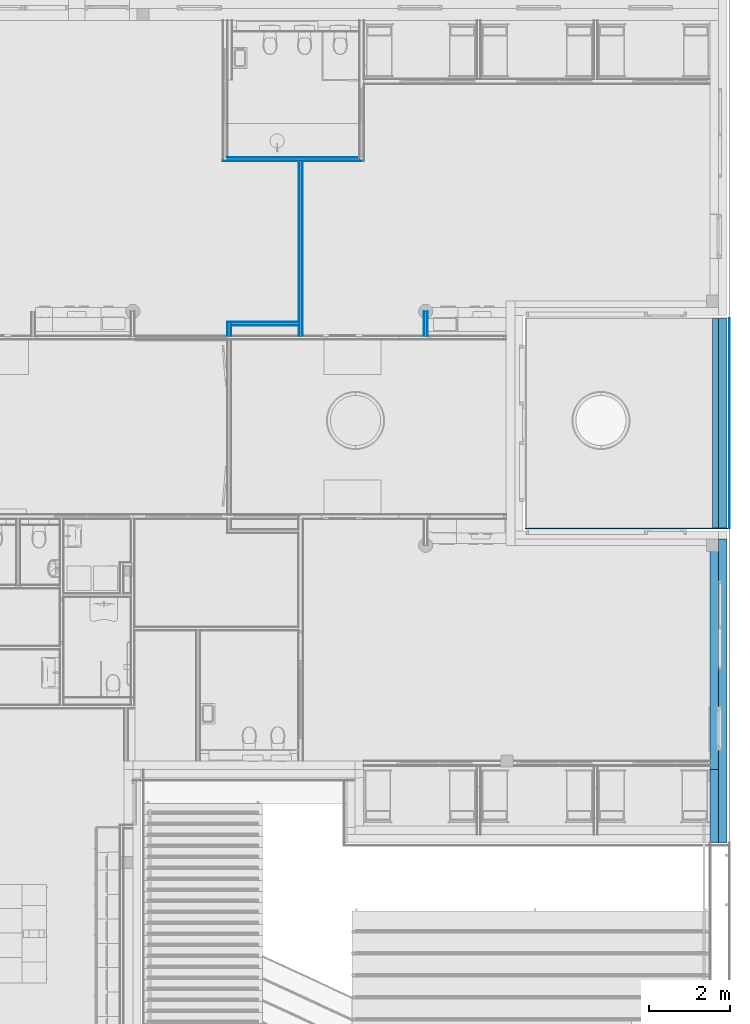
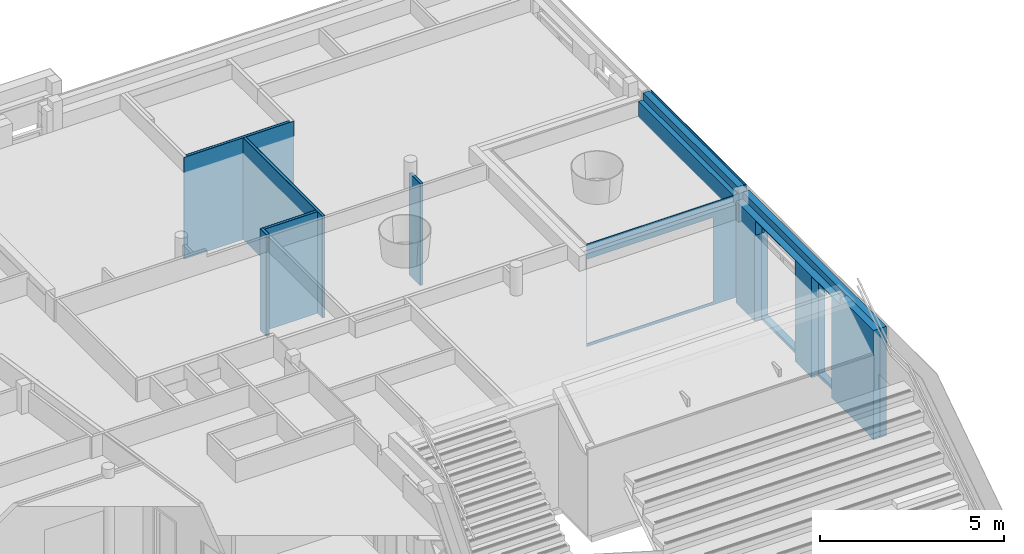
# One storey, part 77 of 167: 21 building element parts, 3 openings, 8 elements without a shape of their own.
"""IFC2X3 building model written with IfcOpenShell, lengths in millimetres."""

import ifcopenshell
import ifcopenshell.guid

model = None  # the IFC model being written
_history = None  # IfcOwnerHistory: only IFC2X3 demands one
_inside = {}  # id of a spatial element -> (the spatial element, [elements in it])
_under = {}  # id of a project, library or spatial element -> (it, [spatial elements below it])
_declared = {}  # id of a project -> (the project, [libraries it declares])
_typed = {}  # id of a type object -> (the type object, [elements of that type])
_made_of = {}  # id of a material, layer set ... -> (it, [elements and type objects made of it])


def new_model(schema):
    """Start an empty IFC model of exactly this schema.

    Asked for "IFC4X3", IfcOpenShell would pick the latest addendum, in which some entities
    have other attributes; the version numbers below select the first issue.
    IFC2X3 requires an IfcOwnerHistory on every rooted entity: one is made here for all.
    """
    global model, _history
    if schema == "IFC4X3":
        model = ifcopenshell.file(schema_version=(4, 3, 0, 0))
    else:
        model = ifcopenshell.file(schema=schema)
    _inside.clear()
    _under.clear()
    _declared.clear()
    _typed.clear()
    _made_of.clear()
    _history = None
    if model.schema == "IFC2X3":
        org = make("IfcOrganization", Name="unknown")
        user = make(
            "IfcPersonAndOrganization",
            ThePerson=make("IfcPerson", FamilyName="unknown"),
            TheOrganization=org,
        )
        app = make(
            "IfcApplication",
            ApplicationDeveloper=org,
            Version="unknown",
            ApplicationFullName="unknown",
            ApplicationIdentifier="unknown",
        )
        _history = make(
            "IfcOwnerHistory",
            OwningUser=user,
            OwningApplication=app,
            ChangeAction="ADDED",
            CreationDate=0,
        )
    return model


def make(cls, **values):
    """One entity of the class cls with the attributes given. An attribute that is None is left unset."""
    return model.create_entity(
        cls, **{name: value for name, value in values.items() if value is not None}
    )


def entity(cls, *values):
    """Any entity or typed value of the class cls, its attributes in the order of the schema. None: left unset."""
    e = model.create_entity(cls)
    for i, value in enumerate(values):
        if value is not None:
            e[i] = value
    return e


def rooted(cls, **values):
    """An entity with a GlobalId (a new one), such as an element, a storey or a relation."""
    return make(cls, GlobalId=ifcopenshell.guid.new(), OwnerHistory=_history, **values)


def si_unit(unit_type, name, prefix=None):
    """IfcSIUnit, for example si_unit("LENGTHUNIT", "METRE", prefix="MILLI")."""
    return make("IfcSIUnit", UnitType=unit_type, Prefix=prefix, Name=name)


def converted_unit(unit_type, name, factor, base, dimensions=None, offset=None):
    """IfcConversionBasedUnit, such as the inch: factor (a typed value) times the base unit."""
    return make(
        "IfcConversionBasedUnit"
        if offset is None
        else "IfcConversionBasedUnitWithOffset",
        ConversionOffset=offset,
        Dimensions=None
        if dimensions is None
        else entity("IfcDimensionalExponents", *dimensions),
        UnitType=unit_type,
        Name=name,
        ConversionFactor=make(
            "IfcMeasureWithUnit", ValueComponent=factor, UnitComponent=base
        ),
    )


def derived_unit(unit_type, elements):
    """IfcDerivedUnit: a product of units, each with its exponent."""
    return make(
        "IfcDerivedUnit",
        Elements=[
            make("IfcDerivedUnitElement", Unit=unit, Exponent=power)
            for unit, power in elements
        ],
        UnitType=unit_type,
    )


def money_unit(currency):
    """IfcMonetaryUnit."""
    return make("IfcMonetaryUnit", Currency=currency)


def assignment(units):
    """IfcUnitAssignment: the units of a project."""
    return None if units is None else make("IfcUnitAssignment", Units=units)


def point(xyz):
    """IfcCartesianPoint."""
    return None if xyz is None else make("IfcCartesianPoint", Coordinates=xyz)


def direction(xyz):
    """IfcDirection."""
    return None if xyz is None else make("IfcDirection", DirectionRatios=xyz)


def frame(location, z_axis=None, x_axis=None):
    """IfcAxis2Placement3D, a coordinate frame: its origin and axes. An axis left out is left unset."""
    return make(
        "IfcAxis2Placement3D",
        Location=point(location),
        Axis=direction(z_axis),
        RefDirection=direction(x_axis),
    )


def origin_with_axes():
    """The frame at (0, 0, 0) with the z axis (0, 0, 1) and the x axis (1, 0, 0) written out."""
    return frame((0.0, 0.0, 0.0), z_axis=(0.0, 0.0, 1.0), x_axis=(1.0, 0.0, 0.0))


def place(relative_to, where):
    """IfcLocalPlacement: puts the frame where relative to a parent placement (None: the world)."""
    return make(
        "IfcLocalPlacement", PlacementRelTo=relative_to, RelativePlacement=where
    )


def context(
    kind, dimensions, precision=None, world=None, true_north=None, identifier=None
):
    """IfcGeometricRepresentationContext, for example the 3D "Model" context."""
    return make(
        "IfcGeometricRepresentationContext",
        ContextIdentifier=identifier,
        ContextType=kind,
        CoordinateSpaceDimension=dimensions,
        Precision=precision,
        WorldCoordinateSystem=world,
        TrueNorth=true_north,
    )


def subcontext(parent, identifier, kind, view, scale=None):
    """IfcGeometricRepresentationSubContext, for example "Body" below "Model"."""
    return make(
        "IfcGeometricRepresentationSubContext",
        ContextIdentifier=identifier,
        ContextType=kind,
        ParentContext=parent,
        TargetScale=scale,
        TargetView=view,
    )


def project(units=None, contexts=None):
    """IfcProject with its units and contexts."""
    return rooted(
        "IfcProject",
        Name="project",
        RepresentationContexts=contexts,
        UnitsInContext=assignment(units),
    )


def spatial(cls, under=None, at=None, **own):
    """A site, building, storey or space (cls), placed at a placement, below another one or the project."""
    s = rooted(cls, ObjectPlacement=at, **own)
    if under is not None:
        _under.setdefault(under.id(), (under, []))[1].append(s)
    return s


def faces_of(points, faces, orient=None, outer=None):
    """IfcFace entities. A face is a list of loops; a loop is a list of indices into points, from 0.

    orient and outer hold one flag for each loop. By default every Orientation is true, the
    first loop of a face is its IfcFaceOuterBound and the others are IfcFaceBound.
    """
    made = []
    for i, loops in enumerate(faces):
        bounds = []
        for j, loop in enumerate(loops):
            is_outer = j == 0 if outer is None else outer[i][j]
            bounds.append(
                make(
                    "IfcFaceOuterBound" if is_outer else "IfcFaceBound",
                    Bound=make("IfcPolyLoop", Polygon=[points[k] for k in loop]),
                    Orientation=True if orient is None else orient[i][j],
                )
            )
        made.append(make("IfcFace", Bounds=bounds))
    return made


def faceted_brep(points, faces, orient=None, outer=None, voids=None):
    """IfcFacetedBrep: a solid bounded by flat faces; with voids (closed shells), ...WithVoids."""
    shared = [point(p) for p in points]
    hull = make("IfcClosedShell", CfsFaces=faces_of(shared, faces, orient, outer))
    if voids is None:
        return make("IfcFacetedBrep", Outer=hull)
    return make(
        "IfcFacetedBrepWithVoids",
        Outer=hull,
        Voids=[
            make(cls, CfsFaces=faces_of(shared, fs, o, b)) for cls, fs, o, b in voids
        ],
    )


def shape(context_of_items, identifier, shape_type, items):
    """IfcShapeRepresentation: the items that make up one representation, for example the "Body"."""
    return make(
        "IfcShapeRepresentation",
        ContextOfItems=context_of_items,
        RepresentationIdentifier=identifier,
        RepresentationType=shape_type,
        Items=items,
    )


def material(Name=None, Category=None):
    """IfcMaterial."""
    return make("IfcMaterial", Name=Name, Category=Category)


def made_of(thing, what):
    """Note that an element or type object is made of a material, layer set ...; save() writes the relation."""
    if what is not None:
        _made_of.setdefault(what.id(), (what, []))[1].append(thing)
    return thing


def type_object(cls, material=None, **own):
    """A type object (cls), such as IfcWallType, which elements share."""
    return made_of(rooted(cls, **own), material)


def element(
    cls,
    number,
    at=None,
    inside=None,
    cuts=None,
    type_object=None,
    material=None,
    context=None,
    identifier="Body",
    shape_type=None,
    held_by="IfcProductDefinitionShape",
    body=None,
    shapes=None,
    **own,
):
    """One element of the class cls, such as IfcWall. Its Tag is "e" and its number.

    at: its placement. inside: the storey or other place that contains it. cuts: it is an
    opening in that element (IfcRelVoidsElement). A single representation is given by context,
    identifier, shape_type and body (its items); several are given by shapes. held_by: the class
    of the entity that holds the representations. save() writes the other relations.
    """
    e = rooted(cls, Tag="e%d" % number, ObjectPlacement=at, **own)
    if body is not None:
        shapes = [shape(context, identifier, shape_type, body)]
    if shapes is not None:
        e.Representation = make(held_by, Representations=shapes)
    if inside is not None:
        _inside.setdefault(inside.id(), (inside, []))[1].append(e)
    if cuts is not None:
        rooted(
            "IfcRelVoidsElement", RelatingBuildingElement=cuts, RelatedOpeningElement=e
        )
    if type_object is not None:
        _typed.setdefault(type_object.id(), (type_object, []))[1].append(e)
    return made_of(e, material)


def aggregate(whole, parts):
    """IfcRelAggregates: a whole, such as a stair, and the parts it consists of."""
    return rooted("IfcRelAggregates", RelatingObject=whole, RelatedObjects=parts)


def save(model, path):
    """Write the relations noted so far, then the file.

    IfcRelAggregates (storeys below a building ...), IfcRelContainedInSpatialStructure (elements
    in a storey), IfcRelDefinesByType, IfcRelAssociatesMaterial and IfcRelDeclares: one each for
    every whole, place, type object, material and project.
    """
    for whole, parts in _under.values():
        aggregate(whole, parts)
    for where, things in _inside.values():
        rooted(
            "IfcRelContainedInSpatialStructure",
            RelatedElements=things,
            RelatingStructure=where,
        )
    for kind, things in _typed.values():
        rooted("IfcRelDefinesByType", RelatedObjects=things, RelatingType=kind)
    for what, things in _made_of.values():
        rooted("IfcRelAssociatesMaterial", RelatedObjects=things, RelatingMaterial=what)
    for by, libraries in _declared.values():
        rooted("IfcRelDeclares", RelatingContext=by, RelatedDefinitions=libraries)
    model.write(path)


model = new_model("IFC2X3")

# Units and contexts
model_context = context("Model", 3, precision=0.01, world=origin_with_axes(), true_north=direction((0.0, 1.0)))
plan_context = context("Plan", 3, precision=0.01, world=origin_with_axes(), true_north=direction((0.0, 1.0)))
body_context = subcontext(model_context, "Body", "Model", "MODEL_VIEW")
ifc_project = project(units=[si_unit("LENGTHUNIT", "METRE", prefix="MILLI"), si_unit("AREAUNIT", "SQUARE_METRE"), si_unit("VOLUMEUNIT", "CUBIC_METRE"), converted_unit("PLANEANGLEUNIT", "DEGREE", entity("IfcPlaneAngleMeasure", 0.0174532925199), si_unit("PLANEANGLEUNIT", "RADIAN"), dimensions=[0, 0, 0, 0, 0, 0, 0]), si_unit("SOLIDANGLEUNIT", "STERADIAN"), money_unit("EUR"), converted_unit("TIMEUNIT", "Year", entity("IfcTimeMeasure", 31556926.0), si_unit("TIMEUNIT", "SECOND"), dimensions=[0, 0, 1, 0, 0, 0, 0]), si_unit("MASSUNIT", "GRAM", prefix="KILO"), si_unit("THERMODYNAMICTEMPERATUREUNIT", "DEGREE_CELSIUS"), si_unit("LUMINOUSINTENSITYUNIT", "LUMEN"), si_unit("ENERGYUNIT", "JOULE", prefix="MEGA"), derived_unit("THERMALCONDUCTANCEUNIT", [(si_unit("POWERUNIT", "WATT"), 1), (si_unit("LENGTHUNIT", "METRE"), -1), (si_unit("THERMODYNAMICTEMPERATUREUNIT", "KELVIN"), -1)]), derived_unit("SPECIFICHEATCAPACITYUNIT", [(si_unit("ENERGYUNIT", "JOULE"), 1), (si_unit("MASSUNIT", "GRAM", prefix="KILO"), -1), (si_unit("THERMODYNAMICTEMPERATUREUNIT", "KELVIN"), -1)]), derived_unit("MASSDENSITYUNIT", [(si_unit("MASSUNIT", "GRAM", prefix="KILO"), 1), (si_unit("VOLUMEUNIT", "CUBIC_METRE"), -1)])], contexts=[model_context, plan_context])

# Site, building, storey
site_placement = place(None, origin_with_axes())
site = spatial("IfcSite", under=ifc_project, at=site_placement, Name="Site", CompositionType="ELEMENT")
building_placement = place(site_placement, origin_with_axes())
building = spatial("IfcBuilding", under=site, at=building_placement, Name="Naam gebouw", CompositionType="ELEMENT")
storey_placement = place(building_placement, origin_with_axes())
storey = spatial("IfcBuildingStorey", under=building, at=storey_placement, Name="Begane grond", CompositionType="ELEMENT", Elevation=0.0)

# Wall, building element parts
wall_type_1 = type_object("IfcWallType", Name="_TenW_22_Metalstud 100 enkel gipsvezelplaat 100", PredefinedType="NOTDEFINED")
wall_1_placement = place(storey_placement, frame((36000.0, 41700.0, -100.0), z_axis=(0.0, 0.0, 1.0), x_axis=(0.0, 1.0, 0.0)))
wall_1 = element("IfcWall", 1, at=wall_1_placement, inside=storey, type_object=wall_type_1, Name="22_Wand_Wand-x")
ifc_material_1 = material(Name="Gipsplaat watervast")
building_element_part_1_placement = place(wall_1_placement, origin_with_axes())
building_element_part_1 = element("IfcBuildingElementPart", 2, at=building_element_part_1_placement, material=ifc_material_1, Name="Gipsplaat watervast", context=body_context, shape_type="Brep", body=[
    faceted_brep([(650.000002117, 50.0, 3405.0), (650.000002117, 37.5, 3405.0), (650.000002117, 37.5, 30.0), (650.000002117, 50.0, 30.0), (50.0, 37.5, 3405.0), (50.0, 50.0, 3405.0), (50.0, 37.5, 30.0), (50.0, 50.0, 30.0)], [[[0, 1, 2, 3]], [[4, 1, 0, 5]], [[1, 4, 6, 2]], [[3, 2, 6, 7]], [[5, 0, 3, 7]], [[4, 5, 7, 6]]]),
])
ifc_material_2 = material(Name="Isolatie - Steenwol zacht")
building_element_part_2_placement = place(wall_1_placement, origin_with_axes())
building_element_part_2 = element("IfcBuildingElementPart", 3, at=building_element_part_2_placement, material=ifc_material_2, Name="Isolatie - Steenwol zacht", context=body_context, shape_type="Brep", body=[
    faceted_brep([(650.000002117, 37.5, 3405.0), (650.000002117, -37.5, 3405.0), (650.000002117, -37.5, 30.0), (650.000002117, 37.5, 30.0), (37.5, -37.5, 3405.0), (37.5, 37.5, 3405.0), (37.5, -37.5, 30.0), (37.5, 37.5, 30.0)], [[[0, 1, 2, 3]], [[4, 1, 0, 5]], [[1, 4, 6, 2]], [[3, 2, 6, 7]], [[5, 0, 3, 7]], [[4, 5, 7, 6]]]),
])
building_element_part_3_placement = place(wall_1_placement, origin_with_axes())
building_element_part_3 = element("IfcBuildingElementPart", 4, at=building_element_part_3_placement, material=ifc_material_1, Name="Gipsplaat watervast", context=body_context, shape_type="Brep", body=[
    faceted_brep([(650.000002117, -37.5, 3405.0), (650.000002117, -50.0, 3405.0), (650.000002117, -50.0, 30.0), (650.000002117, -37.5, 30.0), (50.0, -50.0, 3405.0), (50.0, -37.5, 3405.0), (50.0, -50.0, 30.0), (50.0, -37.5, 30.0)], [[[0, 1, 2, 3]], [[4, 1, 0, 5]], [[1, 4, 6, 2]], [[3, 2, 6, 7]], [[5, 0, 3, 7]], [[4, 5, 7, 6]]]),
])
aggregate(wall_1, [building_element_part_1, building_element_part_2, building_element_part_3])

wall_2_placement = place(storey_placement, frame((32925.2814665, 46090.9999441, -100.0), z_axis=(0.0, 0.0, 1.0), x_axis=(0.0, -1.0, 0.0)))
wall_2 = element("IfcWall", 5, at=wall_2_placement, inside=storey, type_object=wall_type_1, Name="22_Wand_Wand-x")
building_element_part_4_placement = place(wall_2_placement, origin_with_axes())
building_element_part_4 = element("IfcBuildingElementPart", 6, at=building_element_part_4_placement, material=ifc_material_1, Name="Gipsplaat watervast", context=body_context, shape_type="Brep", body=[
    faceted_brep([(50.0, 37.5, 3405.0), (50.0, 50.0, 3405.0), (50.0, 50.0, 30.0), (50.0, 37.5, 30.0), (4340.99994411, 50.0, 3405.0), (4340.99994411, 37.5, 3405.0), (4340.99994411, 50.0, 30.0), (4340.99994411, 37.5, 30.0)], [[[0, 1, 2, 3]], [[4, 1, 0, 5]], [[1, 4, 6, 2]], [[3, 2, 6, 7]], [[5, 0, 3, 7]], [[4, 5, 7, 6]]]),
])
building_element_part_5_placement = place(wall_2_placement, origin_with_axes())
building_element_part_5 = element("IfcBuildingElementPart", 7, at=building_element_part_5_placement, material=ifc_material_2, Name="Isolatie - Steenwol zacht", context=body_context, shape_type="Brep", body=[
    faceted_brep([(37.5, -37.5, 3405.0), (37.5, 37.5, 3405.0), (37.5, 37.5, 30.0), (37.5, -37.5, 30.0), (4353.49994411, 37.5, 3405.0), (4353.49994411, -37.5, 3405.0), (4353.49994411, 37.5, 30.0), (4353.49994411, -37.5, 30.0)], [[[0, 1, 2, 3]], [[4, 1, 0, 5]], [[1, 4, 6, 2]], [[3, 2, 6, 7]], [[5, 0, 3, 7]], [[4, 5, 7, 6]]]),
])
building_element_part_6_placement = place(wall_2_placement, origin_with_axes())
building_element_part_6 = element("IfcBuildingElementPart", 8, at=building_element_part_6_placement, material=ifc_material_1, Name="Gipsplaat watervast", context=body_context, shape_type="Brep", body=[
    faceted_brep([(50.0, -50.0, 3405.0), (50.0, -37.5, 3405.0), (50.0, -37.5, 30.0), (50.0, -50.0, 30.0), (4003.49994411, -37.5, 3405.0), (4003.49994411, -50.0, 3405.0), (4003.49994411, -37.5, 30.0), (4003.49994411, -50.0, 30.0)], [[[0, 1, 2, 3]], [[4, 1, 0, 5]], [[1, 4, 6, 2]], [[3, 2, 6, 7]], [[5, 0, 3, 7]], [[4, 5, 7, 6]]]),
    faceted_brep([(4078.49994411, -50.0, 3405.0), (4078.49994411, -37.5, 3405.0), (4078.49994411, -37.5, 30.0), (4078.49994411, -50.0, 30.0), (4340.99994411, -37.5, 3405.0), (4340.99994411, -50.0, 3405.0), (4340.99994411, -37.5, 30.0), (4340.99994411, -50.0, 30.0)], [[[0, 1, 2, 3]], [[4, 1, 0, 5]], [[1, 4, 6, 2]], [[3, 2, 6, 7]], [[5, 0, 3, 7]], [[4, 5, 7, 6]]]),
])
aggregate(wall_2, [building_element_part_4, building_element_part_5, building_element_part_6])

wall_3_placement = place(storey_placement, frame((34424.9999301, 46090.9999441, -100.0), z_axis=(0.0, 0.0, 1.0), x_axis=(-1.0, 0.0, 0.0)))
wall_3 = element("IfcWall", 9, at=wall_3_placement, inside=storey, type_object=wall_type_1, Name="22_Wand_Wand-x")
building_element_part_7_placement = place(wall_3_placement, origin_with_axes())
building_element_part_7 = element("IfcBuildingElementPart", 10, at=building_element_part_7_placement, material=ifc_material_1, Name="Gipsplaat watervast", context=body_context, shape_type="Brep", body=[
    faceted_brep([(1462.21846363, 37.5, 3405.0), (-49.9999999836, 37.5, 3405.0), (-49.9999999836, 37.5, 30.0), (1462.21846363, 37.5, 30.0), (-49.9999999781, 50.0, 3405.0), (1462.21846363, 50.0, 3405.0), (-49.9999999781, 50.0, 30.0), (1462.21846363, 50.0, 30.0)], [[[0, 1, 2, 3]], [[4, 1, 0, 5]], [[1, 4, 6, 2]], [[3, 2, 6, 7]], [[5, 0, 3, 7]], [[4, 5, 7, 6]]]),
    faceted_brep([(3412.5, 37.5, 3405.0), (1537.21846363, 37.5, 3405.0), (1537.21846363, 37.5, 30.0), (3412.5, 37.5, 30.0), (1537.21846363, 50.0, 3405.0), (3412.5, 50.0, 3405.0), (1537.21846363, 50.0, 30.0), (3412.5, 50.0, 30.0)], [[[0, 1, 2, 3]], [[4, 1, 0, 5]], [[1, 4, 6, 2]], [[3, 2, 6, 7]], [[5, 0, 3, 7]], [[4, 5, 7, 6]]]),
])
building_element_part_8_placement = place(wall_3_placement, origin_with_axes())
building_element_part_8 = element("IfcBuildingElementPart", 11, at=building_element_part_8_placement, material=ifc_material_2, Name="Isolatie - Steenwol zacht", context=body_context, shape_type="Brep", body=[
    faceted_brep([(3300.0, -37.5, 3405.0), (49.9999999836, -37.5, 3405.0), (49.9999999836, -37.5, 30.0), (3300.0, -37.5, 30.0), (50.0000000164, 37.5, 3405.0), (3300.0, 37.5, 3405.0), (50.0000000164, 37.5, 30.0), (3300.0, 37.5, 30.0)], [[[0, 1, 2, 3]], [[4, 1, 0, 5]], [[1, 4, 6, 2]], [[3, 2, 6, 7]], [[5, 0, 3, 7]], [[4, 5, 7, 6]]]),
])
building_element_part_9_placement = place(wall_3_placement, origin_with_axes())
building_element_part_9 = element("IfcBuildingElementPart", 12, at=building_element_part_9_placement, material=ifc_material_1, Name="Gipsplaat watervast", context=body_context, shape_type="Brep", body=[
    faceted_brep([(3300.0, -50.0, 3405.0), (62.4999999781, -50.0, 3405.0), (62.4999999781, -50.0, 30.0), (3300.0, -50.0, 30.0), (62.4999999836, -37.5, 3405.0), (3300.0, -37.5, 3405.0), (62.4999999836, -37.5, 30.0), (3300.0, -37.5, 30.0)], [[[0, 1, 2, 3]], [[4, 1, 0, 5]], [[1, 4, 6, 2]], [[3, 2, 6, 7]], [[5, 0, 3, 7]], [[4, 5, 7, 6]]]),
])
aggregate(wall_3, [building_element_part_7, building_element_part_8, building_element_part_9])

# Wall, opening, building element part
wall_type_2 = type_object("IfcWallType", Name="_TenW_21_Spouwmuur ht-150-kz RC 4,7 424", PredefinedType="NOTDEFINED")
wall_4_placement = place(storey_placement, frame((43200.0, 36749.9999919, -100.0), z_axis=(0.0, 0.0, 1.0), x_axis=(-1.0, 0.0, 0.0)))
wall_4 = element("IfcWall", 13, at=wall_4_placement, inside=storey, type_object=wall_type_2, Name="21_Wand_Wand-x")
opening_1_placement = place(wall_4_placement, frame((2761.27984715, 0.0, 100.0), z_axis=(0.0, 0.0, 1.0), x_axis=(1.0, 0.0, 0.0)))
element("IfcOpeningElement", 14, at=opening_1_placement, cuts=wall_4, Name="32_Deur_He-07s", context=body_context, shape_type="Brep", body=[
    faceted_brep([(-1975.72015285, 574.0, 2800.0), (-1975.72015285, 574.0, 0.0), (-1975.72015285, -234.0, 0.0), (-1975.72015285, -234.0, 2800.0), (1975.72015285, 574.0, 2800.0), (1975.72015285, 574.0, 0.0), (1975.72015285, -234.0, 0.0), (1975.72015285, -234.0, 2800.0)], [[[0, 1, 2, 3]], [[0, 4, 5, 1]], [[1, 5, 6, 2]], [[3, 2, 6, 7]], [[4, 0, 3, 7]], [[5, 4, 7, 6]]]),
    faceted_brep([(-1975.72015285, -698.0, 0.0), (-1975.72015285, -698.0, 2800.0), (-1975.72015285, -234.0, 2800.0), (-1975.72015285, -234.0, 0.0), (1975.72015285, -698.0, 0.0), (1975.72015285, -698.0, 2800.0), (1975.72015285, -234.0, 2800.0), (1975.72015285, -234.0, 0.0)], [[[0, 1, 2, 3]], [[0, 4, 5, 1]], [[1, 5, 6, 2]], [[3, 2, 6, 7]], [[4, 0, 3, 7]], [[5, 4, 7, 6]]]),
])
ifc_material_3 = material(Name="_TenW_21_Hout betimmering")
building_element_part_10_placement = place(wall_4_placement, origin_with_axes())
building_element_part_10 = element("IfcBuildingElementPart", 15, at=building_element_part_10_placement, material=ifc_material_3, Name="_TenW_21_Hout betimmering", context=body_context, shape_type="Brep", body=[
    faceted_brep([(-274.0, -256.0, 0.0), (-274.0, -256.0, 3630.0), (0.0, -256.00000174, 3630.0), (0.0, -256.000003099, 3405.0), (4755.0, -256.000002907, 3405.0), (4755.0, -256.0, 0.0), (4737.0, -256.000003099, 100.0), (4737.0, -256.000003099, 2900.0), (785.559694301, -256.000003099, 2900.0), (785.559694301, -256.000003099, 100.0), (-274.0, -274.0, 3630.0), (-274.0, -274.0, 0.0), (0.0, -274.0, 3630.0), (0.0, -274.0, 3405.0), (4755.0, -274.0, 3405.0), (4755.0, -274.0, 0.0), (4737.0, -274.0, 100.0), (4737.0, -274.0, 2900.0), (785.559694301, -274.0, 2900.0), (785.559694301, -274.0, 100.0)], [[[0, 1, 2, 3, 4, 5], [6, 7, 8, 9]], [[10, 1, 0, 11]], [[2, 1, 10, 12]], [[13, 3, 2, 12]], [[14, 4, 3, 13]], [[14, 15, 5, 4]], [[5, 15, 11, 0]], [[16, 17, 7, 6]], [[17, 18, 8, 7]], [[18, 19, 9, 8]], [[19, 16, 6, 9]], [[10, 11, 15, 14, 13, 12], [16, 19, 18, 17]]]),
])
aggregate(wall_4, [building_element_part_10])

# Wall, building element parts
wall_5_placement = place(storey_placement, frame((43200.0, 37023.9999919, 2780.0), z_axis=(0.0, 0.0, 1.0), x_axis=(0.0, 1.0, 0.0)))
wall_5 = element("IfcWall", 16, at=wall_5_placement, inside=storey, type_object=wall_type_2, Name="21_Wand_Wand-x")
ifc_material_4 = material(Name="Steen - Kalkzandsteen C")
building_element_part_11_placement = place(wall_5_placement, origin_with_axes())
building_element_part_11 = element("IfcBuildingElementPart", 17, at=building_element_part_11_placement, material=ifc_material_4, Name="Steen - Kalkzandsteen C", context=body_context, shape_type="Brep", body=[
    faceted_brep([(5152.00000805, 150.0, 525.0), (5152.00000805, 0.0, 525.0), (5152.00000805, 0.0, 0.0), (5152.00000805, 150.0, 0.0), (0.0, 0.0, 525.0), (0.0, 150.0, 525.0), (0.0, 0.0, 0.0), (0.0, 150.0, 0.0)], [[[0, 1, 2, 3]], [[4, 1, 0, 5]], [[1, 4, 6, 2]], [[7, 3, 2, 6]], [[5, 0, 3, 7]], [[4, 5, 7, 6]]]),
])
building_element_part_12_placement = place(wall_5_placement, origin_with_axes())
building_element_part_12 = element("IfcBuildingElementPart", 18, at=building_element_part_12_placement, material=ifc_material_2, Name="Isolatie - Steenwol zacht", context=body_context, shape_type="Brep", body=[
    faceted_brep([(0.0, 0.0, 0.0), (5152.00000805, 0.0, 0.0), (5152.00000805, -200.0, 0.0), (0.0, -200.0, 0.0), (0.0, 0.0, 750.0), (5152.00000805, 0.0, 750.0), (5152.00000805, -200.0, 750.0), (0.0, -200.0, 750.0)], [[[0, 1, 2, 3]], [[4, 5, 1, 0]], [[2, 1, 5, 6]], [[3, 2, 6, 7]], [[4, 0, 3, 7]], [[7, 6, 5, 4]]]),
])
building_element_part_13_placement = place(wall_5_placement, origin_with_axes())
building_element_part_13 = element("IfcBuildingElementPart", 19, at=building_element_part_13_placement, material=ifc_material_3, Name="_TenW_21_Hout betimmering", context=body_context, shape_type="Brep", body=[
    faceted_brep([(5152.00000805, -256.0, 0.0), (5152.00000805, -274.0, 0.0), (0.0, -274.0, 0.0), (0.0, -256.0, 0.0), (5152.00000805, -256.0, 750.0), (5152.00000805, -274.0, 750.0), (0.0, -274.0, 750.0), (0.0, -256.0, 750.0)], [[[0, 1, 2, 3]], [[0, 4, 5, 1]], [[1, 5, 6, 2]], [[3, 2, 6, 7]], [[4, 0, 3, 7]], [[5, 4, 7, 6]]]),
])
aggregate(wall_5, [building_element_part_11, building_element_part_12, building_element_part_13])

wall_6_placement = place(storey_placement, frame((31171.7968849, 41700.0, -100.0), z_axis=(0.0, 0.0, 1.0), x_axis=(0.0, 1.0, 0.0)))
wall_6 = element("IfcWall", 20, at=wall_6_placement, inside=storey, type_object=wall_type_1, Name="22_Wand_Wand-x")
building_element_part_14_placement = place(wall_6_placement, origin_with_axes())
building_element_part_14 = element("IfcBuildingElementPart", 21, at=building_element_part_14_placement, material=ifc_material_1, Name="Gipsplaat watervast", context=body_context, shape_type="Brep", body=[
    faceted_brep([(400.0, 50.0, 3405.0), (400.0, 37.5, 3405.0), (400.0, 37.5, 30.0), (400.0, 50.0, 30.0), (50.0, 37.5, 3405.0), (50.0, 50.0, 3405.0), (50.0, 37.5, 30.0), (50.0, 50.0, 30.0)], [[[0, 1, 2, 3]], [[4, 1, 0, 5]], [[1, 4, 6, 2]], [[3, 2, 6, 7]], [[5, 0, 3, 7]], [[4, 5, 7, 6]]]),
])
building_element_part_15_placement = place(wall_6_placement, origin_with_axes())
building_element_part_15 = element("IfcBuildingElementPart", 22, at=building_element_part_15_placement, material=ifc_material_2, Name="Isolatie - Steenwol zacht", context=body_context, shape_type="Brep", body=[
    faceted_brep([(387.5, 37.5, 3405.0), (387.5, -37.5, 3405.0), (387.5, -37.5, 30.0), (387.5, 37.5, 30.0), (37.5, -37.5, 3405.0), (37.5, 37.5, 3405.0), (37.5, -37.5, 30.0), (37.5, 37.5, 30.0)], [[[0, 1, 2, 3]], [[4, 1, 0, 5]], [[1, 4, 6, 2]], [[3, 2, 6, 7]], [[5, 0, 3, 7]], [[4, 5, 7, 6]]]),
])
building_element_part_16_placement = place(wall_6_placement, origin_with_axes())
building_element_part_16 = element("IfcBuildingElementPart", 23, at=building_element_part_16_placement, material=ifc_material_1, Name="Gipsplaat watervast", context=body_context, shape_type="Brep", body=[
    faceted_brep([(312.5, -37.5, 3405.0), (312.5, -50.0, 3405.0), (312.5, -50.0, 30.0), (312.5, -37.5, 30.0), (50.0, -50.0, 3405.0), (50.0, -37.5, 3405.0), (50.0, -50.0, 30.0), (50.0, -37.5, 30.0)], [[[0, 1, 2, 3]], [[4, 1, 0, 5]], [[1, 4, 6, 2]], [[3, 2, 6, 7]], [[5, 0, 3, 7]], [[4, 5, 7, 6]]]),
])
aggregate(wall_6, [building_element_part_14, building_element_part_15, building_element_part_16])

wall_7_placement = place(storey_placement, frame((31171.7968849, 42050.0, -100.0), z_axis=(0.0, 0.0, 1.0), x_axis=(1.0, 0.0, 0.0)))
wall_7 = element("IfcWall", 24, at=wall_7_placement, inside=storey, type_object=wall_type_1, Name="22_Wand_Wand-x")
building_element_part_17_placement = place(wall_7_placement, origin_with_axes())
building_element_part_17 = element("IfcBuildingElementPart", 25, at=building_element_part_17_placement, material=ifc_material_1, Name="Gipsplaat watervast", context=body_context, shape_type="Brep", body=[
    faceted_brep([(-37.5, 49.9999999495, 3405.0), (1703.48458158, 49.9999991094, 3405.0), (1703.48458158, 49.9999999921, 30.0), (-37.5, 49.9999999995, 30.0), (1703.48458158, 37.4999994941, 3405.0), (-37.5, 37.4999999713, 3405.0), (1703.48458158, 37.4999999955, 30.0), (-37.5, 37.4999999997, 30.0)], [[[0, 1, 2, 3]], [[4, 1, 0, 5]], [[1, 4, 6, 2]], [[3, 2, 6, 7]], [[5, 0, 3, 7]], [[4, 5, 7, 6]]]),
])
building_element_part_18_placement = place(wall_7_placement, origin_with_axes())
building_element_part_18 = element("IfcBuildingElementPart", 26, at=building_element_part_18_placement, material=ifc_material_2, Name="Isolatie - Steenwol zacht", context=body_context, shape_type="Brep", body=[
    faceted_brep([(37.5, 37.4999999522, 3405.0), (1715.98458158, 37.4999994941, 3405.0), (1715.98458158, 37.4999999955, 30.0), (37.5, 37.4999999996, 30.0), (1715.98458158, -37.5000003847, 3405.0), (37.5, -37.5000000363, 3405.0), (1715.98458158, -37.5000000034, 30.0), (37.5, -37.5000000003, 30.0)], [[[0, 1, 2, 3]], [[4, 1, 0, 5]], [[1, 4, 6, 2]], [[3, 2, 6, 7]], [[5, 0, 3, 7]], [[4, 5, 7, 6]]]),
])
building_element_part_19_placement = place(wall_7_placement, origin_with_axes())
building_element_part_19 = element("IfcBuildingElementPart", 27, at=building_element_part_19_placement, material=ifc_material_1, Name="Gipsplaat watervast", context=body_context, shape_type="Brep", body=[
    faceted_brep([(50.0, -37.5000000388, 3405.0), (1703.48458158, -37.5000003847, 3405.0), (1703.48458158, -37.5000000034, 30.0), (50.0, -37.5000000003, 30.0), (1703.48458158, -50.0, 3405.0), (50.0, -50.0, 3405.0), (1703.48458158, -50.0, 30.0), (50.0, -50.0, 30.0)], [[[0, 1, 2, 3]], [[4, 1, 0, 5]], [[1, 4, 6, 2]], [[3, 2, 6, 7]], [[5, 0, 3, 7]], [[4, 5, 7, 6]]]),
])
aggregate(wall_7, [building_element_part_17, building_element_part_18, building_element_part_19])

# Wall, openings, building element parts
wall_type_3 = type_object("IfcWallType", Name="_TenW_21_Spouwmuur ht-kz-214- RC 4,7 488", PredefinedType="NOTDEFINED")
wall_8_placement = place(storey_placement, frame((43200.0, 29286.0000132, -100.0), z_axis=(0.0, 0.0, 1.0), x_axis=(0.0, 1.0, 0.0)))
wall_8 = element("IfcWall", 28, at=wall_8_placement, inside=storey, type_object=wall_type_3, Name="21_Wand_Wand-x")
opening_2_placement = place(wall_8_placement, frame((2807.55892646, 0.0, 99.9999574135), z_axis=(0.0, 0.0, 1.0), x_axis=(1.0, 0.0, 0.0)))
element("IfcOpeningElement", 29, at=opening_2_placement, cuts=wall_8, Name="31_Raam_He-09", context=body_context, shape_type="Brep", body=[
    faceted_brep([(-541.26, -74.0, 0.0), (-541.26, -74.0, 2800.0), (-541.26, 702.0, 2800.0), (-541.26, 702.0, 0.0), (541.26, -74.0, 0.0), (541.26, -74.0, 2800.0), (541.26, 702.0, 2800.0), (541.26, 702.0, 0.0)], [[[0, 1, 2, 3]], [[0, 4, 5, 1]], [[1, 5, 6, 2]], [[3, 2, 6, 7]], [[4, 0, 3, 7]], [[5, 4, 7, 6]]]),
    faceted_brep([(-541.26, -74.0, 2800.0), (-541.26, -74.0, 0.0), (-541.26, -762.0, 0.0), (-541.26, -762.0, 2800.0), (541.26, -74.0, 2800.0), (541.26, -74.0, 0.0), (541.26, -762.0, 0.0), (541.26, -762.0, 2800.0)], [[[0, 1, 2, 3]], [[0, 4, 5, 1]], [[1, 5, 6, 2]], [[3, 2, 6, 7]], [[4, 0, 3, 7]], [[5, 4, 7, 6]]]),
])
opening_3_placement = place(wall_8_placement, frame((5350.13892646, 0.0, 100.0), z_axis=(0.0, 0.0, 1.0), x_axis=(1.0, 0.0, 0.0)))
element("IfcOpeningElement", 30, at=opening_3_placement, cuts=wall_8, Name="31_Raam_He-11s", context=body_context, shape_type="Brep", body=[
    faceted_brep([(-1095.0, -154.0, 2800.0), (-1095.0, -69.0, 2800.0), (1095.0, -69.0, 2800.0), (1095.0, -154.0, 2800.0), (-1095.0, -154.0, 2885.0), (-1095.0, -69.0, 2885.0), (1095.0, -69.0, 2885.0), (1095.0, -154.0, 2885.0)], [[[0, 1, 2, 3]], [[0, 4, 5, 1]], [[1, 5, 6, 2]], [[3, 2, 6, 7]], [[4, 0, 3, 7]], [[5, 4, 7, 6]]]),
    faceted_brep([(1095.0, 702.0, 0.0), (1095.0, 702.0, 2800.0), (1095.0, -74.0, 2800.0), (1095.0, -74.0, 0.0), (-1095.0, 702.0, 0.0), (-1095.0, 702.0, 2800.0), (-1095.0, -74.0, 2800.0), (-1095.0, -74.0, 0.0)], [[[0, 1, 2, 3]], [[0, 4, 5, 1]], [[1, 5, 6, 2]], [[3, 2, 6, 7]], [[4, 0, 3, 7]], [[5, 4, 7, 6]]]),
    faceted_brep([(1095.0, -762.0, 2800.0), (1095.0, -762.0, 0.0), (1095.0, -74.0, 0.0), (1095.0, -74.0, 2800.0), (-1095.0, -762.0, 2800.0), (-1095.0, -762.0, 0.0), (-1095.0, -74.0, 0.0), (-1095.0, -74.0, 2800.0)], [[[0, 1, 2, 3]], [[0, 4, 5, 1]], [[1, 5, 6, 2]], [[3, 2, 6, 7]], [[4, 0, 3, 7]], [[5, 4, 7, 6]]]),
])
building_element_part_20_placement = place(wall_8_placement, origin_with_axes())
building_element_part_20 = element("IfcBuildingElementPart", 31, at=building_element_part_20_placement, material=ifc_material_4, Name="Steen - Kalkzandsteen C", context=body_context, shape_type="Brep", body=[
    faceted_brep([(6445.13892646, 0.0, 2900.0), (6445.13892646, 0.0, 100.0), (6445.13892646, 0.0, 30.0), (7463.99997874, 0.0, 30.0), (7463.99997874, 0.0, 3405.0), (1799.99976072, 0.0, 3405.0), (1799.99976072, 0.0, 3630.0), (0.0, 0.0, 3630.0), (0.0, 0.0, 0.0), (200.0, 0.0, 0.0), (200.0, 0.0, 30.0), (2266.29892646, 0.0, 30.0), (2266.29892646, 0.0, 99.9999574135), (2266.29892646, 0.0, 2899.99995741), (2266.29892646, 0.0, 2979.99995741), (2261.81892646, 0.0, 2979.99995741), (2261.81892646, 0.0, 2899.99995741), (2243.81892646, 0.0, 2899.99995741), (2243.81892646, 0.0, 3399.99995741), (3348.81892646, 0.0, 3399.99995741), (3348.81892646, 0.0, 3379.99995741), (3348.81892646, 0.0, 2899.99995741), (3348.81892646, 0.0, 99.9999574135), (3348.81892646, 0.0, 30.0), (4255.13892646, 0.0, 30.0), (4255.13892646, 0.0, 100.0), (4255.13892646, 0.0, 2900.0), (4225.10892646, 0.0, 2899.99995741), (4225.10892646, 0.0, 2909.99995741), (4255.13892646, 0.0, 2909.99995741), (4255.13892646, 0.0, 3379.99995741), (6415.10892646, 0.0, 3379.99995741), (6415.10892646, 0.0, 2900.0), (6445.13892646, 214.0, 2900.0), (6445.13892646, 214.0, 100.0), (6445.13892646, 214.0, 30.0), (7463.99997874, 214.0, 30.0), (7463.99997874, 214.0, 3405.0), (1799.99976072, 214.0, 3405.0), (1799.99976072, 214.0, 3630.0), (0.0, 214.0, 3630.0), (0.0, 214.0, 0.0), (200.0, 214.0, 0.0), (200.0, 214.0, 30.0), (2266.29892646, 214.0, 30.0), (2266.29892646, 214.0, 99.9999574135), (2266.29892646, 214.0, 2899.99995741), (2266.29892646, 18.0, 2899.99995741), (2266.29892646, 5.66471820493, 2989.99995741), (2266.29892646, 5.66471820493, 2979.99995741), (2266.29892646, 18.0, 2909.99995741), (2266.29892646, 214.0, 2909.99995741), (2266.29892646, 214.0, 3379.99995741), (2266.29892646, 0.0, 3379.99995741), (2266.29892646, 0.0, 2989.99995741), (2261.81892646, 5.66471820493, 2979.99995741), (2261.81892646, 5.66471820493, 2899.99995741), (2243.81892646, 5.66471820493, 2899.99995741), (2243.81892646, 5.66471820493, 3399.99995741), (3348.81892646, 5.66471820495, 3399.99995741), (3348.81892646, 5.66471820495, 3379.99995741), (3348.81892646, 214.0, 3379.99995741), (3348.81892646, 214.0, 2899.99995741), (3348.81892646, 214.0, 99.9999574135), (3348.81892646, 214.0, 30.0), (4255.13892646, 214.0, 30.0), (4255.13892646, 214.0, 100.0), (4255.13892646, 196.0, 2900.0), (4255.13892646, 214.0, 2900.0), (4225.10892646, 196.0, 2899.99995741), (4225.10892646, 196.0, 2909.99995741), (4255.13892646, 196.0, 2909.99995741), (4255.13892646, 214.0, 3379.99995741), (6415.10892646, 214.0, 3379.99995741), (6415.10892646, 214.0, 2900.0), (2248.81892646, 214.0, 2909.99995741), (2248.81892646, 214.0, 2899.99995741), (2248.81892646, 18.0, 2899.99995741), (3330.81892646, 5.66471820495, 3379.99995741), (2261.81892646, 5.66471820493, 2989.99995741), (2261.81892646, 5.66471820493, 3389.99995741), (3330.81892646, 5.66471820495, 3389.99995741), (2248.81892646, 18.0, 2909.99995741), (3330.81892646, 0.0, 3379.99995741), (2261.81892646, 0.0, 2989.99995741), (3330.81892646, 0.0, 3389.99995741), (2261.81892646, 0.0, 3389.99995741)], [[[0, 1, 2, 3, 4, 5, 6, 7, 8, 9, 10, 11, 12, 13, 14, 15, 16, 17, 18, 19, 20, 21, 22, 23, 24, 25, 26, 27, 28, 29, 30, 31, 32]], [[1, 0, 33, 34]], [[1, 34, 35, 2]], [[36, 3, 2, 35]], [[3, 36, 37, 4]], [[37, 38, 5, 4]], [[39, 6, 5, 38]], [[40, 7, 6, 39]], [[40, 41, 8, 7]], [[8, 41, 42, 9]], [[42, 43, 10, 9]], [[10, 43, 44, 11]], [[12, 11, 44, 45]], [[12, 45, 46, 47, 13]], [[48, 49, 14, 13, 47, 50, 51, 52, 53, 54]], [[49, 55, 15, 14]], [[56, 16, 15, 55]], [[16, 56, 57, 17]], [[17, 57, 58, 18]], [[59, 19, 18, 58]], [[19, 59, 60, 20]], [[20, 60, 61, 62, 21]], [[21, 62, 63, 22]], [[63, 64, 23, 22]], [[23, 64, 65, 24]], [[66, 25, 24, 65]], [[67, 26, 25, 66, 68]], [[26, 67, 69, 27]], [[69, 70, 28, 27]], [[28, 70, 71, 29]], [[67, 68, 72, 30, 29, 71]], [[31, 30, 72, 73]], [[74, 32, 31, 73]], [[0, 32, 74, 33]], [[33, 74, 73, 72, 68, 66, 65, 64, 63, 62, 61, 52, 51, 75, 76, 46, 45, 44, 43, 42, 41, 40, 39, 38, 37, 36, 35, 34]], [[46, 76, 77, 47]], [[78, 60, 59, 58, 57, 56, 55, 49, 48, 79, 80, 81]], [[77, 82, 50, 47]], [[82, 75, 51, 50]], [[60, 78, 83, 53, 52, 61]], [[84, 54, 53, 83, 85, 86]], [[84, 79, 48, 54]], [[70, 69, 67, 71]], [[82, 77, 76, 75]], [[86, 80, 79, 84]], [[81, 80, 86, 85]], [[83, 78, 81, 85]]]),
])
building_element_part_21_placement = place(wall_8_placement, origin_with_axes())
building_element_part_21 = element("IfcBuildingElementPart", 32, at=building_element_part_21_placement, material=ifc_material_2, Name="Isolatie - Steenwol zacht", context=body_context, shape_type="Brep", body=[
    faceted_brep([(6415.10892646, -154.0, 2900.0), (6445.13892646, -154.0, 2900.0), (6445.13892646, -200.0, 2900.0), (6415.10892646, -200.0, 2900.0), (6415.10892646, -154.0, 2985.0), (6445.13892646, -154.0, 2985.0), (6445.13892646, -74.0, 2900.0), (6445.13892646, -74.0, 100.0), (6445.13892646, -200.0, 100.0), (7463.99997874, -200.0, 0.0), (7463.99997874, -200.0, 3630.0), (0.0, -200.0, 3630.0), (0.0, -200.0, 0.0), (4225.10892646, -200.0, 3399.99995741), (6397.10892646, -200.0, 3399.99995741), (6397.10892646, -200.0, 3389.99995741), (4225.10892646, -200.0, 3389.99995741), (2266.29892646, -200.0, 2899.99995741), (2266.29892646, -200.0, 3379.99995741), (3330.81892646, -200.0, 3379.99995741), (3330.81892646, -200.0, 3389.99995741), (2261.81892646, -200.0, 3389.99995741), (2261.81892646, -200.0, 2899.99995741), (2243.81892646, -200.0, 2899.99995741), (2243.81892646, -200.0, 3399.99995741), (3348.81892646, -200.0, 3399.99995741), (3348.81892646, -200.0, 3379.99995741), (3348.81892646, -200.0, 2899.99995741), (3348.81892646, -200.0, 99.9999574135), (2266.29892646, -200.0, 99.9999574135), (4255.13892646, -200.0, 2900.0), (4255.13892646, -200.0, 3379.99995741), (6415.10892646, -200.0, 3379.99995741), (4255.13892646, -200.0, 100.0), (6415.10892646, 0.0, 3379.99995741), (6415.10892646, 0.0, 2900.0), (6415.10892646, -69.0, 2900.0), (6415.10892646, -69.0, 2985.0), (6445.13892646, -69.0, 2985.0), (6445.13892646, -69.0, 2900.0), (6445.13892646, 0.0, 2900.0), (6445.13892646, 0.0, 100.0), (4255.13892646, -74.0, 100.0), (7463.99997874, 0.0, 0.0), (7463.99997874, 0.0, 3630.0), (0.0, 0.0, 3630.0), (0.0, 0.0, 0.0), (4225.10892646, -16.0, 3399.99995741), (6397.10892646, -16.0, 3399.99995741), (6397.10892646, -16.0, 3389.99995741), (4225.10892646, -16.0, 3389.99995741), (2266.29892646, -74.0, 2899.99995741), (2266.29892646, 0.0, 2899.99995741), (2266.29892646, 0.0, 2979.99995741), (2266.29892646, -154.335281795, 2979.99995741), (2266.29892646, -154.335281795, 2989.99995741), (2266.29892646, 0.0, 2989.99995741), (2266.29892646, 0.0, 3379.99995741), (3330.81892646, 0.0, 3379.99995741), (3330.81892646, 0.0, 3389.99995741), (2261.81892646, 0.0, 3389.99995741), (2261.81892646, 0.0, 2979.99995741), (2261.81892646, 0.0, 2899.99995741), (2261.81892646, 0.0, 2989.99995741), (2261.81892646, -154.335281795, 2989.99995741), (2261.81892646, -154.335281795, 2979.99995741), (2243.81892646, 0.0, 2899.99995741), (2243.81892646, 0.0, 3399.99995741), (3348.81892646, 0.0, 3399.99995741), (3348.81892646, 0.0, 3379.99995741), (3348.81892646, -74.0, 2899.99995741), (3348.81892646, 0.0, 2899.99995741), (3348.81892646, -74.0, 99.9999574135), (2266.29892646, -74.0, 99.9999574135), (4255.13892646, 0.0, 3379.99995741), (4255.13892646, -74.0, 2900.0), (4255.13892646, -3.66471820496, 2900.0), (4255.13892646, -3.66471820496, 2909.99995741), (4255.13892646, 0.0, 2909.99995741), (4255.13892646, -176.0, 2979.99995741), (4255.13892646, -176.0, 2989.99995741), (4255.13892646, -16.0, 2989.99995741), (4255.13892646, -16.0, 2979.99995741), (2266.29892646, 0.0, 99.9999574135), (3348.81892646, 0.0, 99.9999574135), (4255.13892646, 0.0, 2900.0), (4255.13892646, 0.0, 100.0), (4225.10892646, 0.0, 2909.99995741), (4225.10892646, 0.0, 2899.99995741), (4225.10892646, -3.66471820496, 2899.99995741), (4225.10892646, -3.66471820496, 2909.99995741), (4225.10892646, -176.0, 2979.99995741), (4225.10892646, -176.0, 2989.99995741), (4225.10892646, -16.0, 2989.99995741), (4225.10892646, -16.0, 2979.99995741)], [[[0, 1, 2, 3]], [[1, 0, 4, 5]], [[1, 6, 7, 8, 2]], [[9, 10, 11, 12], [13, 14, 15, 16], [17, 18, 19, 20, 21, 22, 23, 24, 25, 26, 27, 28, 29], [30, 31, 32, 3, 2, 8, 33]], [[4, 0, 3, 32, 34, 35, 36, 37]], [[4, 37, 38, 5]], [[6, 1, 5, 38, 39]], [[6, 39, 40, 41, 7]], [[42, 33, 8, 7]], [[9, 43, 44, 10]], [[10, 44, 45, 11]], [[11, 45, 46, 12]], [[43, 9, 12, 46]], [[13, 47, 48, 14]], [[14, 48, 49, 15]], [[15, 49, 50, 16]], [[16, 50, 47, 13]], [[51, 52, 53, 54, 55, 56, 57, 18, 17]], [[58, 19, 18, 57]], [[20, 19, 58, 59]], [[20, 59, 60, 21]], [[61, 62, 22, 21, 60, 63, 64, 65]], [[23, 22, 62, 66]], [[24, 23, 66, 67]], [[67, 68, 25, 24]], [[26, 25, 68, 69]], [[70, 27, 26, 69, 71]], [[27, 70, 72, 28]], [[28, 72, 73, 29]], [[29, 73, 51, 17]], [[74, 31, 30, 75, 76, 77, 78], [79, 80, 81, 82]], [[34, 32, 31, 74]], [[75, 30, 33, 42]], [[44, 43, 46, 45], [69, 68, 67, 66, 62, 61, 53, 52, 83, 84, 71], [85, 86, 41, 40, 35, 34, 74, 78, 87, 88]], [[39, 36, 35, 40]], [[36, 39, 38, 37]], [[7, 41, 86, 42]], [[48, 47, 50, 49]], [[83, 52, 51, 73]], [[53, 61, 65, 54]], [[54, 65, 64, 55]], [[55, 64, 63, 56]], [[59, 58, 57, 56, 63, 60]], [[84, 72, 70, 71]], [[83, 73, 72, 84]], [[42, 86, 85, 76, 75]], [[76, 89, 90, 77]], [[77, 90, 87, 78]], [[79, 91, 92, 80]], [[80, 92, 93, 81]], [[81, 93, 94, 82]], [[82, 94, 91, 79]], [[87, 90, 89, 88]], [[85, 88, 89, 76]], [[93, 92, 91, 94]]]),
])
aggregate(wall_8, [building_element_part_20, building_element_part_21])

save(model, "model.ifc")
